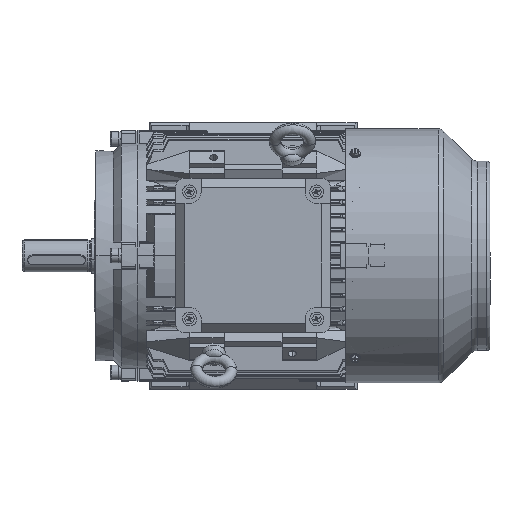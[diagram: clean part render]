
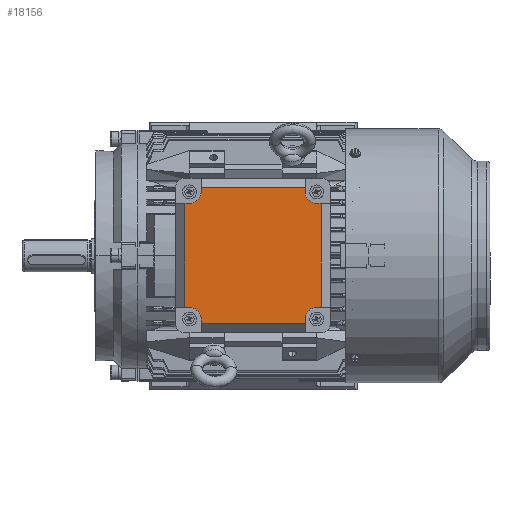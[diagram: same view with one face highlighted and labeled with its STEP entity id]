
A CAD part, top view. The second image highlights one B-rep face of the part: STEP entity #18156.
In plain terms, the highlighted planar face has unit normal (0, 0, 1) as drawn and (0, 0, -1) by its records, which use the part's own axes.
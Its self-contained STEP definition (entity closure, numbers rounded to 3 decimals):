
#18140 = ORIENTED_EDGE ( 'NONE', *, *, #23001, .F. ) ;
#18156 = ADVANCED_FACE ( 'NONE', ( #60213 ), #60212, .T. ) ;
#18158 = EDGE_LOOP ( 'NONE', ( #18160, #18168, #18200, #18206, #18212, #18219, #18140, #18254, #18262, #18270, #18188, #18193, #18308, #18230, #18237, #18242 ) ) ;
#18160 = ORIENTED_EDGE ( 'NONE', *, *, #18162, .F. ) ;
#18162 = EDGE_CURVE ( 'NONE', #18163, #18165, #60188, .T. ) ;
#18163 = VERTEX_POINT ( 'NONE', #60182 ) ;
#18165 = VERTEX_POINT ( 'NONE', #60180 ) ;
#18168 = ORIENTED_EDGE ( 'NONE', *, *, #18170, .T. ) ;
#18170 = EDGE_CURVE ( 'NONE', #18163, #18197, #60283, .T. ) ;
#18184 = EDGE_CURVE ( 'NONE', #18268, #18185, #60356, .T. ) ;
#18185 = VERTEX_POINT ( 'NONE', #60342 ) ;
#18188 = ORIENTED_EDGE ( 'NONE', *, *, #18190, .F. ) ;
#18190 = EDGE_CURVE ( 'NONE', #18192, #18185, #60330, .T. ) ;
#18192 = VERTEX_POINT ( 'NONE', #60316 ) ;
#18193 = ORIENTED_EDGE ( 'NONE', *, *, #18195, .F. ) ;
#18195 = EDGE_CURVE ( 'NONE', #18196, #18192, #60309, .T. ) ;
#18196 = VERTEX_POINT ( 'NONE', #60419 ) ;
#18197 = VERTEX_POINT ( 'NONE', #60418 ) ;
#18200 = ORIENTED_EDGE ( 'NONE', *, *, #18202, .F. ) ;
#18202 = EDGE_CURVE ( 'NONE', #18204, #18197, #60403, .T. ) ;
#18204 = VERTEX_POINT ( 'NONE', #60389 ) ;
#18206 = ORIENTED_EDGE ( 'NONE', *, *, #18208, .F. ) ;
#18208 = EDGE_CURVE ( 'NONE', #18210, #18204, #60378, .T. ) ;
#18210 = VERTEX_POINT ( 'NONE', #60367 ) ;
#18212 = ORIENTED_EDGE ( 'NONE', *, *, #18214, .F. ) ;
#18214 = EDGE_CURVE ( 'NONE', #18216, #18210, #60473, .T. ) ;
#18216 = VERTEX_POINT ( 'NONE', #60464 ) ;
#18219 = ORIENTED_EDGE ( 'NONE', *, *, #18222, .T. ) ;
#18222 = EDGE_CURVE ( 'NONE', #18216, #18223, #60442, .T. ) ;
#18223 = VERTEX_POINT ( 'NONE', #60435 ) ;
#18227 = VERTEX_POINT ( 'NONE', #60425 ) ;
#18230 = ORIENTED_EDGE ( 'NONE', *, *, #18232, .T. ) ;
#18232 = EDGE_CURVE ( 'NONE', #18227, #18234, #60539, .T. ) ;
#18234 = VERTEX_POINT ( 'NONE', #60521 ) ;
#18237 = ORIENTED_EDGE ( 'NONE', *, *, #18239, .F. ) ;
#18239 = EDGE_CURVE ( 'NONE', #18240, #18234, #60511, .T. ) ;
#18240 = VERTEX_POINT ( 'NONE', #60502 ) ;
#18242 = ORIENTED_EDGE ( 'NONE', *, *, #18244, .F. ) ;
#18244 = EDGE_CURVE ( 'NONE', #18165, #18240, #60483, .T. ) ;
#18254 = ORIENTED_EDGE ( 'NONE', *, *, #18257, .F. ) ;
#18257 = EDGE_CURVE ( 'NONE', #18259, #30798, #60556, .T. ) ;
#18259 = VERTEX_POINT ( 'NONE', #60552 ) ;
#18262 = ORIENTED_EDGE ( 'NONE', *, *, #18265, .F. ) ;
#18265 = EDGE_CURVE ( 'NONE', #18268, #18259, #60645, .T. ) ;
#18268 = VERTEX_POINT ( 'NONE', #60634 ) ;
#18270 = ORIENTED_EDGE ( 'NONE', *, *, #18184, .T. ) ;
#18308 = ORIENTED_EDGE ( 'NONE', *, *, #18310, .F. ) ;
#18310 = EDGE_CURVE ( 'NONE', #18227, #18196, #60733, .T. ) ;
#23001 = EDGE_CURVE ( 'NONE', #30798, #18223, #84881, .T. ) ;
#30798 = VERTEX_POINT ( 'NONE', #77731 ) ;
#60180 = CARTESIAN_POINT ( 'NONE',  ( 45., -55., 0. ) ) ;
#60182 = CARTESIAN_POINT ( 'NONE',  ( 45., -59., 0. ) ) ;
#60184 = DIRECTION ( 'NONE',  ( 0., 1., 0. ) ) ;
#60185 = VECTOR ( 'NONE', #60184, 1000. ) ;
#60186 = CARTESIAN_POINT ( 'NONE',  ( 45., -55., 0. ) ) ;
#60188 = LINE ( 'NONE', #60186, #60185 ) ;
#60204 = DIRECTION ( 'NONE',  ( -1., 0., 0. ) ) ;
#60205 = DIRECTION ( 'NONE',  ( 0., 0., -1. ) ) ;
#60206 = AXIS2_PLACEMENT_3D ( 'NONE', #60211, #60205, #60204 ) ;
#60211 = CARTESIAN_POINT ( 'NONE',  ( -59., 59., 0. ) ) ;
#60212 = PLANE ( 'NONE',  #60206 ) ;
#60213 = FACE_OUTER_BOUND ( 'NONE', #18158, .T. ) ;
#60277 = DIRECTION ( 'NONE',  ( -1., 0., 0. ) ) ;
#60278 = VECTOR ( 'NONE', #60277, 1000. ) ;
#60280 = CARTESIAN_POINT ( 'NONE',  ( -45., -59., 0. ) ) ;
#60283 = LINE ( 'NONE', #60280, #60278 ) ;
#60305 = DIRECTION ( 'NONE',  ( -1., 0., 0. ) ) ;
#60306 = DIRECTION ( 'NONE',  ( 0., 0., -1. ) ) ;
#60307 = CARTESIAN_POINT ( 'NONE',  ( 55., 55., 0. ) ) ;
#60308 = AXIS2_PLACEMENT_3D ( 'NONE', #60307, #60306, #60305 ) ;
#60309 = CIRCLE ( 'NONE', #60308, 10. ) ;
#60316 = CARTESIAN_POINT ( 'NONE',  ( 45., 55., 0. ) ) ;
#60327 = DIRECTION ( 'NONE',  ( 0., 1., 0. ) ) ;
#60328 = VECTOR ( 'NONE', #60327, 1000. ) ;
#60329 = CARTESIAN_POINT ( 'NONE',  ( 45., 55., 0. ) ) ;
#60330 = LINE ( 'NONE', #60329, #60328 ) ;
#60342 = CARTESIAN_POINT ( 'NONE',  ( 45., 59., 0. ) ) ;
#60343 = DIRECTION ( 'NONE',  ( 1., 0., 0. ) ) ;
#60344 = VECTOR ( 'NONE', #60343, 1000. ) ;
#60346 = CARTESIAN_POINT ( 'NONE',  ( 45., 59., 0. ) ) ;
#60356 = LINE ( 'NONE', #60346, #60344 ) ;
#60367 = CARTESIAN_POINT ( 'NONE',  ( -55., -45., 0. ) ) ;
#60371 = DIRECTION ( 'NONE',  ( -1., 0., 0. ) ) ;
#60372 = DIRECTION ( 'NONE',  ( 0., 0., -1. ) ) ;
#60375 = CARTESIAN_POINT ( 'NONE',  ( -55., -55., 0. ) ) ;
#60376 = AXIS2_PLACEMENT_3D ( 'NONE', #60375, #60372, #60371 ) ;
#60378 = CIRCLE ( 'NONE', #60376, 10. ) ;
#60389 = CARTESIAN_POINT ( 'NONE',  ( -45., -55., 0. ) ) ;
#60390 = DIRECTION ( 'NONE',  ( 0., -1., 0. ) ) ;
#60392 = VECTOR ( 'NONE', #60390, 1000. ) ;
#60395 = CARTESIAN_POINT ( 'NONE',  ( -45., -55., 0. ) ) ;
#60403 = LINE ( 'NONE', #60395, #60392 ) ;
#60418 = CARTESIAN_POINT ( 'NONE',  ( -45., -59., 0. ) ) ;
#60419 = CARTESIAN_POINT ( 'NONE',  ( 55., 45., 0. ) ) ;
#60425 = CARTESIAN_POINT ( 'NONE',  ( 59., 45., 0. ) ) ;
#60435 = CARTESIAN_POINT ( 'NONE',  ( -59., 45., 0. ) ) ;
#60436 = DIRECTION ( 'NONE',  ( 0., 1., 0. ) ) ;
#60438 = VECTOR ( 'NONE', #60436, 1000. ) ;
#60440 = CARTESIAN_POINT ( 'NONE',  ( -59., 45., 0. ) ) ;
#60442 = LINE ( 'NONE', #60440, #60438 ) ;
#60464 = CARTESIAN_POINT ( 'NONE',  ( -59., -45., 0. ) ) ;
#60469 = DIRECTION ( 'NONE',  ( 1., 0., 0. ) ) ;
#60471 = VECTOR ( 'NONE', #60469, 1000. ) ;
#60472 = CARTESIAN_POINT ( 'NONE',  ( -55., -45., 0. ) ) ;
#60473 = LINE ( 'NONE', #60472, #60471 ) ;
#60483 = CIRCLE ( 'NONE', #60596, 10. ) ;
#60496 = CARTESIAN_POINT ( 'NONE',  ( 55., -55., 0. ) ) ;
#60502 = CARTESIAN_POINT ( 'NONE',  ( 55., -45., 0. ) ) ;
#60504 = DIRECTION ( 'NONE',  ( 1., 0., 0. ) ) ;
#60506 = VECTOR ( 'NONE', #60504, 1000. ) ;
#60507 = CARTESIAN_POINT ( 'NONE',  ( 55., -45., 0. ) ) ;
#60511 = LINE ( 'NONE', #60507, #60506 ) ;
#60521 = CARTESIAN_POINT ( 'NONE',  ( 59., -45., 0. ) ) ;
#60524 = DIRECTION ( 'NONE',  ( 0., -1., 0. ) ) ;
#60526 = VECTOR ( 'NONE', #60524, 1000. ) ;
#60527 = CARTESIAN_POINT ( 'NONE',  ( 59., -45., 0. ) ) ;
#60539 = LINE ( 'NONE', #60527, #60526 ) ;
#60552 = CARTESIAN_POINT ( 'NONE',  ( -45., 55., 0. ) ) ;
#60553 = DIRECTION ( 'NONE',  ( -1., 0., 0. ) ) ;
#60554 = DIRECTION ( 'NONE',  ( 0., 0., -1. ) ) ;
#60555 = AXIS2_PLACEMENT_3D ( 'NONE', #60563, #60554, #60553 ) ;
#60556 = CIRCLE ( 'NONE', #60555, 10. ) ;
#60563 = CARTESIAN_POINT ( 'NONE',  ( -55., 55., 0. ) ) ;
#60594 = DIRECTION ( 'NONE',  ( -1., 0., 0. ) ) ;
#60595 = DIRECTION ( 'NONE',  ( 0., 0., -1. ) ) ;
#60596 = AXIS2_PLACEMENT_3D ( 'NONE', #60496, #60595, #60594 ) ;
#60634 = CARTESIAN_POINT ( 'NONE',  ( -45., 59., 0. ) ) ;
#60641 = DIRECTION ( 'NONE',  ( 0., -1., 0. ) ) ;
#60643 = VECTOR ( 'NONE', #60641, 1000. ) ;
#60644 = CARTESIAN_POINT ( 'NONE',  ( -45., 55., 0. ) ) ;
#60645 = LINE ( 'NONE', #60644, #60643 ) ;
#60728 = DIRECTION ( 'NONE',  ( -1., 0., 0. ) ) ;
#60730 = VECTOR ( 'NONE', #60728, 1000. ) ;
#60732 = CARTESIAN_POINT ( 'NONE',  ( 55., 45., 0. ) ) ;
#60733 = LINE ( 'NONE', #60732, #60730 ) ;
#77731 = CARTESIAN_POINT ( 'NONE',  ( -55., 45., 0. ) ) ;
#84876 = DIRECTION ( 'NONE',  ( -1., 0., 0. ) ) ;
#84877 = VECTOR ( 'NONE', #84876, 1000. ) ;
#84879 = CARTESIAN_POINT ( 'NONE',  ( -55., 45., 0. ) ) ;
#84881 = LINE ( 'NONE', #84879, #84877 ) ;
